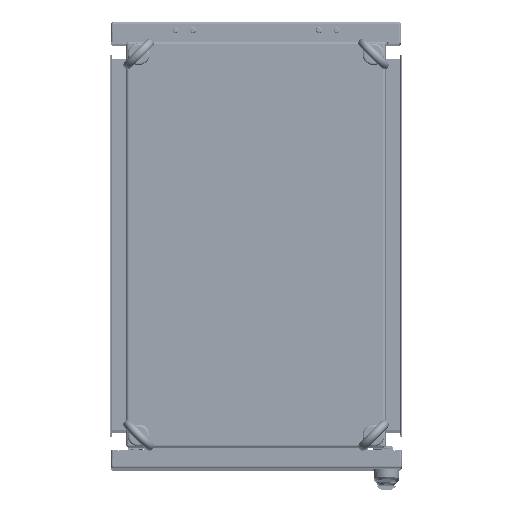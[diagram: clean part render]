
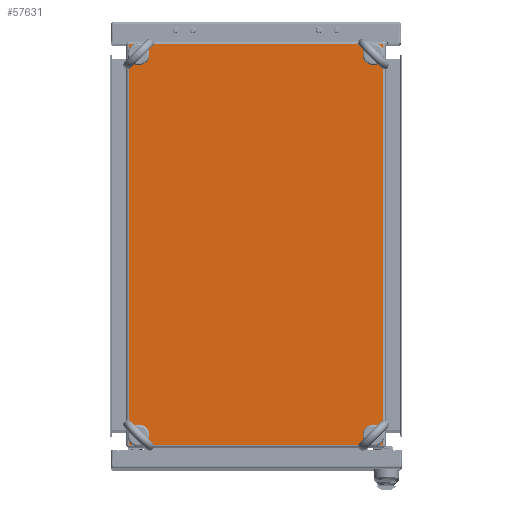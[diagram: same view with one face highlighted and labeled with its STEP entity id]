
A CAD part, top view. The second image highlights one B-rep face of the part: STEP entity #57631.
In plain terms, the highlighted planar face has unit normal (0, 0, 1).
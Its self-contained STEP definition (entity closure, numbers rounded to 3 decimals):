
#6238=LINE('',#94296,#11958);
#6239=LINE('',#94299,#11959);
#6240=LINE('',#94301,#11960);
#6241=LINE('',#94303,#11961);
#11958=VECTOR('',#76018,1000.);
#11959=VECTOR('',#76019,1000.);
#11960=VECTOR('',#76020,1000.);
#11961=VECTOR('',#76021,1000.);
#23224=ORIENTED_EDGE('',*,*,#34452,.F.);
#23225=ORIENTED_EDGE('',*,*,#34453,.F.);
#23226=ORIENTED_EDGE('',*,*,#34454,.F.);
#23227=ORIENTED_EDGE('',*,*,#34455,.F.);
#23228=ORIENTED_EDGE('',*,*,#34456,.T.);
#23229=ORIENTED_EDGE('',*,*,#34457,.F.);
#23230=ORIENTED_EDGE('',*,*,#34458,.T.);
#23231=ORIENTED_EDGE('',*,*,#34459,.T.);
#34452=EDGE_CURVE('',#40939,#40939,#43829,.T.);
#34453=EDGE_CURVE('',#40940,#40940,#43830,.T.);
#34454=EDGE_CURVE('',#40941,#40941,#43831,.T.);
#34455=EDGE_CURVE('',#40942,#40942,#43832,.T.);
#34456=EDGE_CURVE('',#40943,#40944,#6238,.T.);
#34457=EDGE_CURVE('',#40945,#40944,#6239,.F.);
#34458=EDGE_CURVE('',#40945,#40946,#6240,.T.);
#34459=EDGE_CURVE('',#40946,#40943,#6241,.T.);
#40939=VERTEX_POINT('',#94289);
#40940=VERTEX_POINT('',#94291);
#40941=VERTEX_POINT('',#94293);
#40942=VERTEX_POINT('',#94295);
#40943=VERTEX_POINT('',#94297);
#40944=VERTEX_POINT('',#94298);
#40945=VERTEX_POINT('',#94300);
#40946=VERTEX_POINT('',#94302);
#43829=CIRCLE('',#64620,6.5);
#43830=CIRCLE('',#64621,6.5);
#43831=CIRCLE('',#64622,6.5);
#43832=CIRCLE('',#64623,6.5);
#47640=EDGE_LOOP('',(#23224));
#47641=EDGE_LOOP('',(#23225));
#47642=EDGE_LOOP('',(#23226));
#47643=EDGE_LOOP('',(#23227));
#47644=EDGE_LOOP('',(#23228,#23229,#23230,#23231));
#52177=FACE_BOUND('',#47640,.T.);
#52178=FACE_BOUND('',#47641,.T.);
#52179=FACE_BOUND('',#47642,.T.);
#52180=FACE_BOUND('',#47643,.T.);
#52181=FACE_BOUND('',#47644,.T.);
#55188=PLANE('',#64619);
#57631=ADVANCED_FACE('',(#52177,#52178,#52179,#52180,#52181),#55188,.F.);
#64619=AXIS2_PLACEMENT_3D('',#94287,#76008,#76009);
#64620=AXIS2_PLACEMENT_3D('',#94288,#76010,#76011);
#64621=AXIS2_PLACEMENT_3D('',#94290,#76012,#76013);
#64622=AXIS2_PLACEMENT_3D('',#94292,#76014,#76015);
#64623=AXIS2_PLACEMENT_3D('',#94294,#76016,#76017);
#76008=DIRECTION('',(0.,0.,-1.));
#76009=DIRECTION('',(-1.,0.,0.));
#76010=DIRECTION('',(0.,0.,1.));
#76011=DIRECTION('',(1.,0.,0.));
#76012=DIRECTION('',(0.,0.,1.));
#76013=DIRECTION('',(1.,0.,0.));
#76014=DIRECTION('',(0.,0.,1.));
#76015=DIRECTION('',(1.,0.,0.));
#76016=DIRECTION('',(0.,0.,1.));
#76017=DIRECTION('',(1.,0.,0.));
#76018=DIRECTION('',(0.,-1.,0.));
#76019=DIRECTION('',(1.,0.,0.));
#76020=DIRECTION('',(0.,1.,0.));
#76021=DIRECTION('',(-1.,0.,0.));
#94287=CARTESIAN_POINT('',(0.,0.,0.));
#94288=CARTESIAN_POINT('',(160.5,260.5,0.));
#94289=CARTESIAN_POINT('',(167.,260.5,0.));
#94290=CARTESIAN_POINT('',(-160.5,260.5,0.));
#94291=CARTESIAN_POINT('',(-154.,260.5,0.));
#94292=CARTESIAN_POINT('',(160.5,-260.5,0.));
#94293=CARTESIAN_POINT('',(167.,-260.5,0.));
#94294=CARTESIAN_POINT('',(-160.5,-260.5,0.));
#94295=CARTESIAN_POINT('',(-154.,-260.5,0.));
#94296=CARTESIAN_POINT('',(-174.2,274.2,0.));
#94297=CARTESIAN_POINT('',(-174.2,274.2,0.));
#94298=CARTESIAN_POINT('',(-174.2,-274.2,0.));
#94299=CARTESIAN_POINT('',(174.2,-274.2,0.));
#94300=CARTESIAN_POINT('',(174.2,-274.2,0.));
#94301=CARTESIAN_POINT('',(174.2,-274.2,0.));
#94302=CARTESIAN_POINT('',(174.2,274.2,0.));
#94303=CARTESIAN_POINT('',(174.2,274.2,0.));
